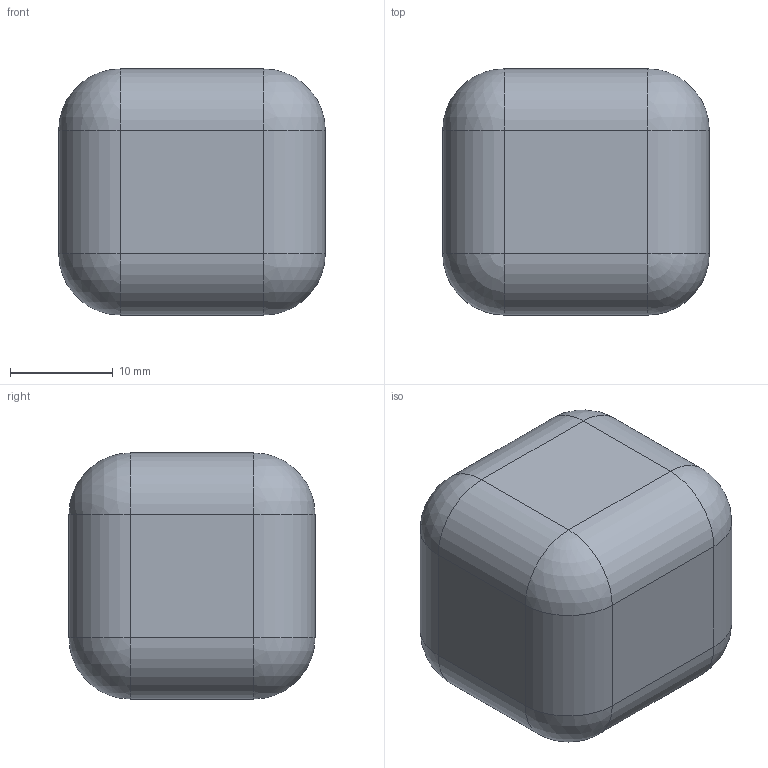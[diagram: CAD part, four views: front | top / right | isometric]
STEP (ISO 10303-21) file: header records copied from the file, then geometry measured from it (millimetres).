
FILE_DESCRIPTION(('Open CASCADE Model'),'2;1');
FILE_NAME('Q4-401','2026-10-05T14:37:23',('Author'),('Open CASCADE'), 'Open CASCADE STEP processor 8.0','build123d','Unknown');
FILE_SCHEMA(('AUTOMOTIVE_DESIGN { 1 0 10303 214 1 1 1 1 }'));
Length unit declared in the file: millimetre
Products named in the file (1): Q4-401
Bounding box: 26 x 24 x 24 mm (x, y, z)
Volume: 12978.5 mm3; surface area: 2845 mm2
Topology: 1 solids, 1 shells, 26 faces, 56 edges, 24 vertices
Faces by surface type: cylinder 12, sphere 8, plane 6
Entity records: 1226 total; most frequent: CARTESIAN_POINT 227, DIRECTION 190, ORIENTED_EDGE 96, PCURVE 96, DEFINITIONAL_REPRESENTATION 96, LINE 88, VECTOR 88, AXIS2_PLACEMENT_3D 51
